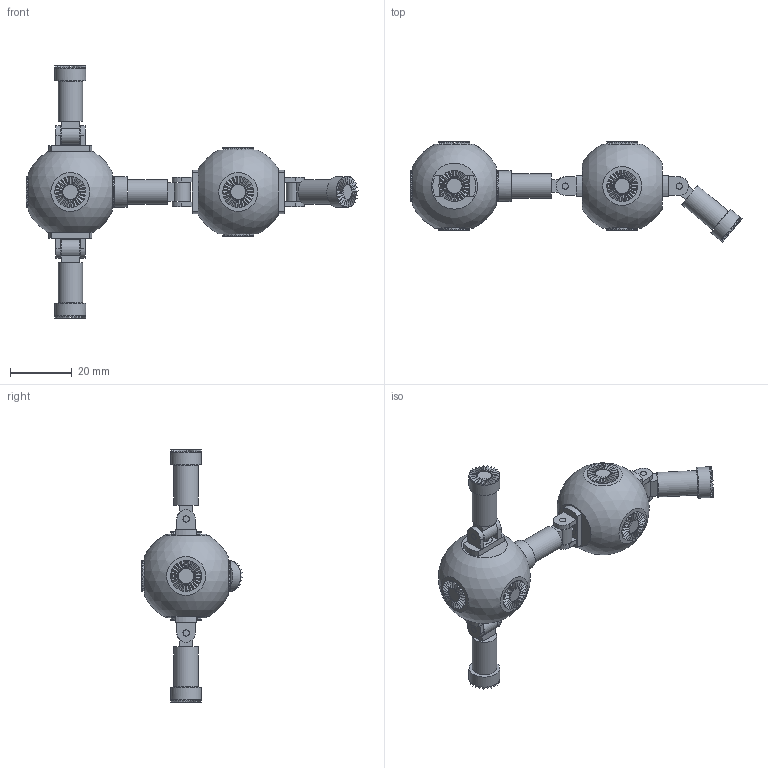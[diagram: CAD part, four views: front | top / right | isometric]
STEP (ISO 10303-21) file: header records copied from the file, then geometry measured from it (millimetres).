
FILE_DESCRIPTION(('Open CASCADE Model'),'2;1');
FILE_NAME('Open CASCADE Shape Model','2026-10-23T00:32:54',('Author'),( 'Open CASCADE'),'Open CASCADE STEP processor 7.9','Open CASCADE 7.9' ,'Unknown');
FILE_SCHEMA(('AUTOMOTIVE_DESIGN { 1 0 10303 214 1 1 1 1 }'));
Length unit declared in the file: millimetre
Products named in the file (19): t_junction; bot0_body; bot0_turret_top; bot0_pin_top; bot0_arm_top; bot0_tip_top; bot0_turret_bottom; bot0_pin_bottom; bot0_arm_bottom; bot0_tip_bottom; bot1_body; bot1_turret_top; bot1_pin_top; bot1_arm_top; bot1_tip_top; bot1_turret_bottom; bot1_pin_bottom; bot1_arm_bottom; bot1_tip_bottom
Assembly tree (18 placements, depth 2):
  t_junction
    bot0_body
    bot0_turret_top
    bot0_pin_top
    bot0_arm_top
    bot0_tip_top
    bot0_turret_bottom
    bot0_pin_bottom
    bot0_arm_bottom
    bot0_tip_bottom
    bot1_body
    bot1_turret_top
    bot1_pin_top
    bot1_arm_top
    bot1_tip_top
    bot1_turret_bottom
    bot1_pin_bottom
    bot1_arm_bottom
    bot1_tip_bottom
Bounding box: 107.77 x 32.62 x 81.8 mm (x, y, z)
Volume: 12415.8 mm3; surface area: 19072 mm2
Topology: 18 solids, 18 shells, 1760 faces, 4264 edges, 2596 vertices
Faces by surface type: cylinder 944, bspline 576, plane 236, sphere 4
Full cylindrical faces by diameter (mm): 2 x4, 2.04 x12, 2.6 x4, 3.8 x8, 5 x8, 5.2 x4, 6 x4, 8 x4, 10 x12, 14.967 x4
Entity records: 133513 total; most frequent: CARTESIAN_POINT 61537, DIRECTION 8612, ORIENTED_EDGE 8528, PCURVE 8528, DEFINITIONAL_REPRESENTATION 8528, B_SPLINE_CURVE_WITH_KNOTS 7668, EDGE_CURVE 4264, SURFACE_CURVE 4192
